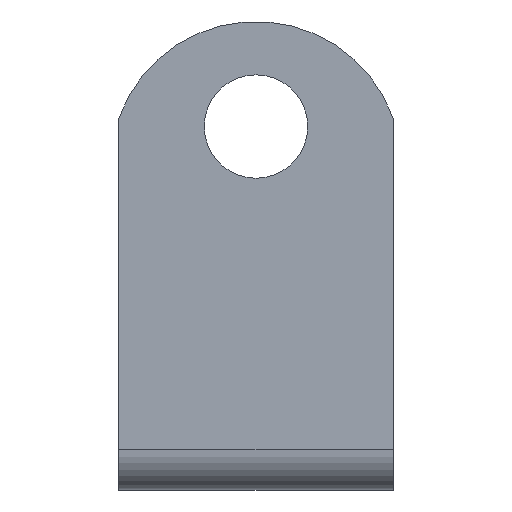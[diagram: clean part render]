
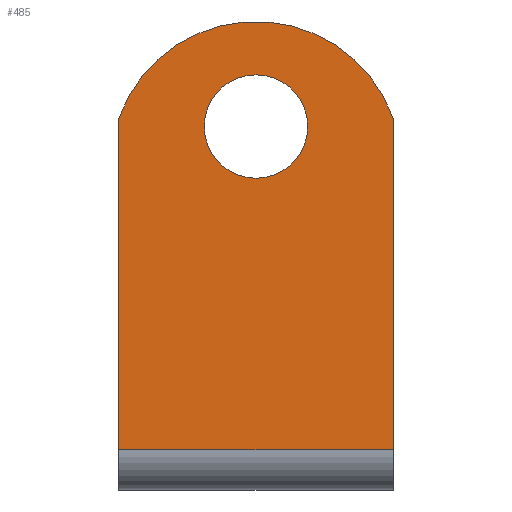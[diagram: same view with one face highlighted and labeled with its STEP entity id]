
A CAD part, left-side view. The second image highlights one B-rep face of the part: STEP entity #485.
In plain terms, the highlighted planar face has unit normal (-1, 0, 0).
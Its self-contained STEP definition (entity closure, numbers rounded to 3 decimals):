
#1 = VERTEX_POINT ( 'NONE', #540 ) ;
#10 = ORIENTED_EDGE ( 'NONE', *, *, #68, .T. ) ;
#12 = LINE ( 'NONE', #446, #193 ) ;
#18 = EDGE_CURVE ( 'NONE', #280, #1, #71, .T. ) ;
#21 = VERTEX_POINT ( 'NONE', #173 ) ;
#22 = ORIENTED_EDGE ( 'NONE', *, *, #550, .T. ) ;
#25 = LINE ( 'NONE', #584, #75 ) ;
#33 = DIRECTION ( 'NONE',  ( 0., 0., -1. ) ) ;
#35 = EDGE_CURVE ( 'NONE', #21, #180, #25, .T. ) ;
#46 = CARTESIAN_POINT ( 'NONE',  ( -17.7, 8.5, 0.5 ) ) ;
#51 = AXIS2_PLACEMENT_3D ( 'NONE', #133, #495, #135 ) ;
#58 = DIRECTION ( 'NONE',  ( 0., 0., -1. ) ) ;
#64 = CARTESIAN_POINT ( 'NONE',  ( -17.7, 0., 20.5 ) ) ;
#68 = EDGE_CURVE ( 'NONE', #280, #180, #12, .T. ) ;
#71 = CIRCLE ( 'NONE', #51, 9.021 ) ;
#75 = VECTOR ( 'NONE', #582, 1000. ) ;
#100 = DIRECTION ( 'NONE',  ( 1., 0., 0. ) ) ;
#111 = AXIS2_PLACEMENT_3D ( 'NONE', #64, #100, #290 ) ;
#127 = ORIENTED_EDGE ( 'NONE', *, *, #18, .F. ) ;
#130 = ORIENTED_EDGE ( 'NONE', *, *, #407, .T. ) ;
#133 = CARTESIAN_POINT ( 'NONE',  ( -17.7, 0., 17.979 ) ) ;
#135 = DIRECTION ( 'NONE',  ( 0., 0., -1. ) ) ;
#137 = AXIS2_PLACEMENT_3D ( 'NONE', #234, #144, #58 ) ;
#144 = DIRECTION ( 'NONE',  ( 1., 0., 0. ) ) ;
#150 = DIRECTION ( 'NONE',  ( 0., 0., -1. ) ) ;
#173 = CARTESIAN_POINT ( 'NONE',  ( -17.7, -8.5, 0.5 ) ) ;
#180 = VERTEX_POINT ( 'NONE', #46 ) ;
#193 = VECTOR ( 'NONE', #33, 1000. ) ;
#222 = CARTESIAN_POINT ( 'NONE',  ( -17.7, 8.5, 21. ) ) ;
#224 = CARTESIAN_POINT ( 'NONE',  ( -17.7, 0., 23.7 ) ) ;
#234 = CARTESIAN_POINT ( 'NONE',  ( -17.7, 0., 20.5 ) ) ;
#245 = PLANE ( 'NONE',  #523 ) ;
#264 = EDGE_LOOP ( 'NONE', ( #22, #535 ) ) ;
#265 = EDGE_LOOP ( 'NONE', ( #130, #127, #10, #340 ) ) ;
#266 = VECTOR ( 'NONE', #308, 1000. ) ;
#274 = LINE ( 'NONE', #352, #266 ) ;
#280 = VERTEX_POINT ( 'NONE', #222 ) ;
#281 = FACE_OUTER_BOUND ( 'NONE', #265, .T. ) ;
#290 = DIRECTION ( 'NONE',  ( 0., 0., -1. ) ) ;
#297 = CIRCLE ( 'NONE', #111, 3.2 ) ;
#308 = DIRECTION ( 'NONE',  ( 0., 0., 1. ) ) ;
#340 = ORIENTED_EDGE ( 'NONE', *, *, #35, .F. ) ;
#352 = CARTESIAN_POINT ( 'NONE',  ( -17.7, -8.5, 0. ) ) ;
#370 = FACE_BOUND ( 'NONE', #264, .T. ) ;
#407 = EDGE_CURVE ( 'NONE', #21, #1, #274, .T. ) ;
#442 = CIRCLE ( 'NONE', #137, 3.2 ) ;
#445 = VERTEX_POINT ( 'NONE', #224 ) ;
#446 = CARTESIAN_POINT ( 'NONE',  ( -17.7, 8.5, 0. ) ) ;
#468 = CARTESIAN_POINT ( 'NONE',  ( -17.7, 0., 17.3 ) ) ;
#476 = CARTESIAN_POINT ( 'NONE',  ( -17.7, 0., 0. ) ) ;
#477 = DIRECTION ( 'NONE',  ( 1., 0., 0. ) ) ;
#485 = ADVANCED_FACE ( 'NONE', ( #370, #281 ), #245, .F. ) ;
#486 = VERTEX_POINT ( 'NONE', #468 ) ;
#495 = DIRECTION ( 'NONE',  ( 1., 0., 0. ) ) ;
#523 = AXIS2_PLACEMENT_3D ( 'NONE', #476, #477, #150 ) ;
#535 = ORIENTED_EDGE ( 'NONE', *, *, #543, .T. ) ;
#540 = CARTESIAN_POINT ( 'NONE',  ( -17.7, -8.5, 21. ) ) ;
#543 = EDGE_CURVE ( 'NONE', #445, #486, #442, .T. ) ;
#550 = EDGE_CURVE ( 'NONE', #486, #445, #297, .T. ) ;
#582 = DIRECTION ( 'NONE',  ( 0., 1., 0. ) ) ;
#584 = CARTESIAN_POINT ( 'NONE',  ( -17.7, 8.5, 0.5 ) ) ;
